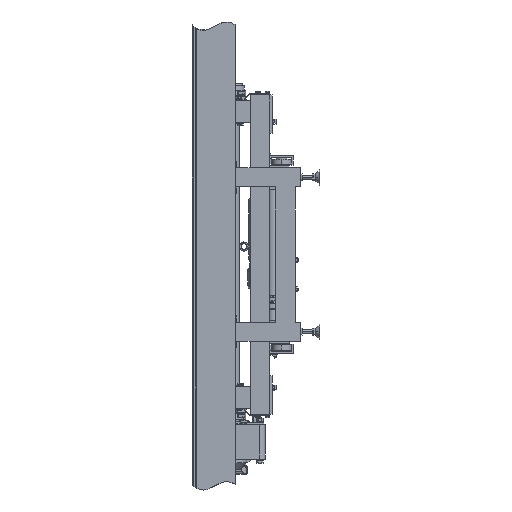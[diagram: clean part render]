
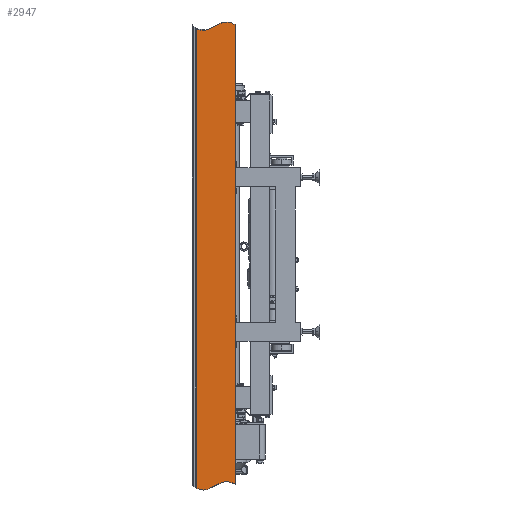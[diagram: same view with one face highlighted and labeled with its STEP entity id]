
A CAD part, left-side view. The second image highlights one B-rep face of the part: STEP entity #2947.
In plain terms, the highlighted planar face has unit normal (-1, 0, 0).
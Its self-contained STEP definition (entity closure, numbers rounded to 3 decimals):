
#2947=ADVANCED_FACE('',(#17677),#17676,.F.);
#17676=PLANE('',#63623);
#17677=FACE_OUTER_BOUND('',#63624,.T.);
#63620=CARTESIAN_POINT('',(-497.5,-178.925,-932.16));
#63621=DIRECTION('',(1.,0.,0.));
#63622=DIRECTION('',(0.,1.,0.));
#63623=AXIS2_PLACEMENT_3D('',#63620,#63621,#63622);
#63624=EDGE_LOOP('',(#90323,#90324,#90325,#90326));
#90323=ORIENTED_EDGE('',*,*,#112661,.T.);
#90324=ORIENTED_EDGE('',*,*,#112660,.F.);
#90325=ORIENTED_EDGE('',*,*,#112657,.T.);
#90326=ORIENTED_EDGE('',*,*,#112662,.T.);
#112657=EDGE_CURVE('',#140214,#140207,#140215,.T.);
#112660=EDGE_CURVE('',#140214,#140227,#140234,.T.);
#112661=EDGE_CURVE('',#140240,#140227,#140241,.T.);
#112662=EDGE_CURVE('',#140207,#140240,#140247,.T.);
#140207=VERTEX_POINT('',#216912);
#140214=VERTEX_POINT('',#216916);
#140215=(BOUNDED_CURVE() B_SPLINE_CURVE(3,(#216917,#216918,#216919,#216920,#216921,#216922,#216923,#216924,#216925,#216926,#216927,#216928,#216929,#216930,#216931),.UNSPECIFIED.,.F.,.F.) B_SPLINE_CURVE_WITH_KNOTS((4,1,1,1,1,1,1,1,1,1,1,1,4),(0.,0.07,0.12,0.176,0.257,0.352,0.433,0.531,0.612,0.679,0.786,0.875,1.),.UNSPECIFIED.) CURVE() GEOMETRIC_REPRESENTATION_ITEM() RATIONAL_B_SPLINE_CURVE((1.,1.,1.,1.,1.,1.,1.,1.,1.,1.,1.,1.,1.,1.,1.)) REPRESENTATION_ITEM('') );
#140227=VERTEX_POINT('',#216935);
#140234=LINE('',#216939,#216940);
#140240=VERTEX_POINT('',#216942);
#140241=(BOUNDED_CURVE() B_SPLINE_CURVE(3,(#216943,#216944,#216945,#216946,#216947,#216948,#216949,#216950,#216951,#216952,#216953,#216954,#216955,#216956,#216957),.UNSPECIFIED.,.F.,.F.) B_SPLINE_CURVE_WITH_KNOTS((4,1,1,1,1,1,1,1,1,1,1,1,4),(0.,0.125,0.214,0.321,0.388,0.469,0.567,0.648,0.743,0.824,0.88,0.93,1.),.UNSPECIFIED.) CURVE() GEOMETRIC_REPRESENTATION_ITEM() RATIONAL_B_SPLINE_CURVE((1.,1.,1.,1.,1.,1.,1.,1.,1.,1.,1.,1.,1.,1.,1.)) REPRESENTATION_ITEM('') );
#140247=LINE('',#216958,#216959);
#216912=CARTESIAN_POINT('',(-497.5,-18.925,885.029));
#216916=CARTESIAN_POINT('',(-497.5,-168.925,900.));
#216917=CARTESIAN_POINT('',(-497.5,-168.925,900.));
#216918=CARTESIAN_POINT('',(-497.5,-165.809,902.053));
#216919=CARTESIAN_POINT('',(-497.5,-160.228,905.236));
#216920=CARTESIAN_POINT('',(-497.5,-151.485,908.658));
#216921=CARTESIAN_POINT('',(-497.5,-141.728,910.887));
#216922=CARTESIAN_POINT('',(-497.5,-129.222,911.019));
#216923=CARTESIAN_POINT('',(-497.5,-115.805,907.694));
#216924=CARTESIAN_POINT('',(-497.5,-102.382,901.944));
#216925=CARTESIAN_POINT('',(-497.5,-90.181,895.411));
#216926=CARTESIAN_POINT('',(-497.5,-78.698,889.146));
#216927=CARTESIAN_POINT('',(-497.5,-66.473,883.235));
#216928=CARTESIAN_POINT('',(-497.5,-53.125,878.654));
#216929=CARTESIAN_POINT('',(-497.5,-35.748,877.84));
#216930=CARTESIAN_POINT('',(-497.5,-24.713,881.757));
#216931=CARTESIAN_POINT('',(-497.5,-18.925,885.029));
#216935=CARTESIAN_POINT('',(-497.5,-168.925,-900.));
#216939=CARTESIAN_POINT('',(-497.5,-168.925,900.));
#216940=VECTOR('',#216941,1800.);
#216941=DIRECTION('',(0.,0.,-1.));
#216942=CARTESIAN_POINT('',(-497.5,-18.925,-914.971));
#216943=CARTESIAN_POINT('',(-497.5,-18.925,-914.971));
#216944=CARTESIAN_POINT('',(-497.5,-24.713,-918.243));
#216945=CARTESIAN_POINT('',(-497.5,-35.748,-922.16));
#216946=CARTESIAN_POINT('',(-497.5,-53.125,-921.346));
#216947=CARTESIAN_POINT('',(-497.5,-66.473,-916.765));
#216948=CARTESIAN_POINT('',(-497.5,-78.698,-910.854));
#216949=CARTESIAN_POINT('',(-497.5,-90.181,-904.589));
#216950=CARTESIAN_POINT('',(-497.5,-102.382,-898.056));
#216951=CARTESIAN_POINT('',(-497.5,-115.805,-892.306));
#216952=CARTESIAN_POINT('',(-497.5,-129.222,-888.981));
#216953=CARTESIAN_POINT('',(-497.5,-141.728,-889.113));
#216954=CARTESIAN_POINT('',(-497.5,-151.485,-891.342));
#216955=CARTESIAN_POINT('',(-497.5,-160.228,-894.764));
#216956=CARTESIAN_POINT('',(-497.5,-165.809,-897.947));
#216957=CARTESIAN_POINT('',(-497.5,-168.925,-900.));
#216958=CARTESIAN_POINT('',(-497.5,-18.925,885.029));
#216959=VECTOR('',#216960,1800.);
#216960=DIRECTION('',(0.,0.,-1.));
